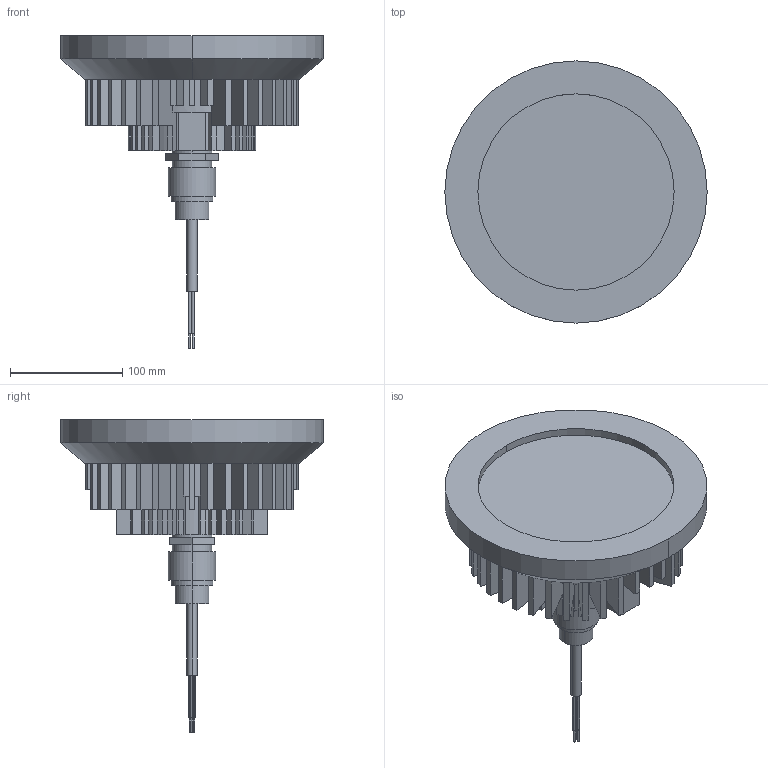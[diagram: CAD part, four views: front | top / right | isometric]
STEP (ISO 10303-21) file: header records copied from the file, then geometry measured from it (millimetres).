
FILE_DESCRIPTION (( 'STEP AP203' ), '1' );
FILE_NAME ('EPLX-HB-60W-RD2-LED-TRC.STEP', '2017-06-19T13:14:49', ( '' ), ( '' ), 'SwSTEP 2.0', 'SolidWorks 2016', '' );
FILE_SCHEMA (( 'CONFIG_CONTROL_DESIGN' ));
Length unit declared in the file: inch
Products named in the file (1): EPLX-HB-60W-RD2-LED-TRC
Bounding box: 233.36 x 233.36 x 278.02 mm (x, y, z)
Volume: 2305760.1 mm3; surface area: 268758.4 mm2
Topology: 1 solids, 1 shells, 345 faces, 915 edges, 588 vertices
Faces by surface type: plane 226, cylinder 117, cone 2
Entity records: 10712 total; most frequent: DIRECTION 1859, CARTESIAN_POINT 1849, ORIENTED_EDGE 1830, EDGE_CURVE 915, VECTOR 663, LINE 663, AXIS2_PLACEMENT_3D 598, VERTEX_POINT 588
